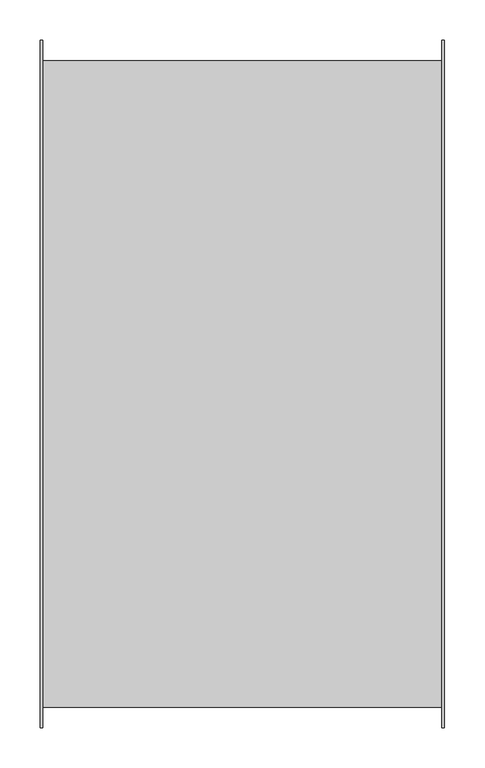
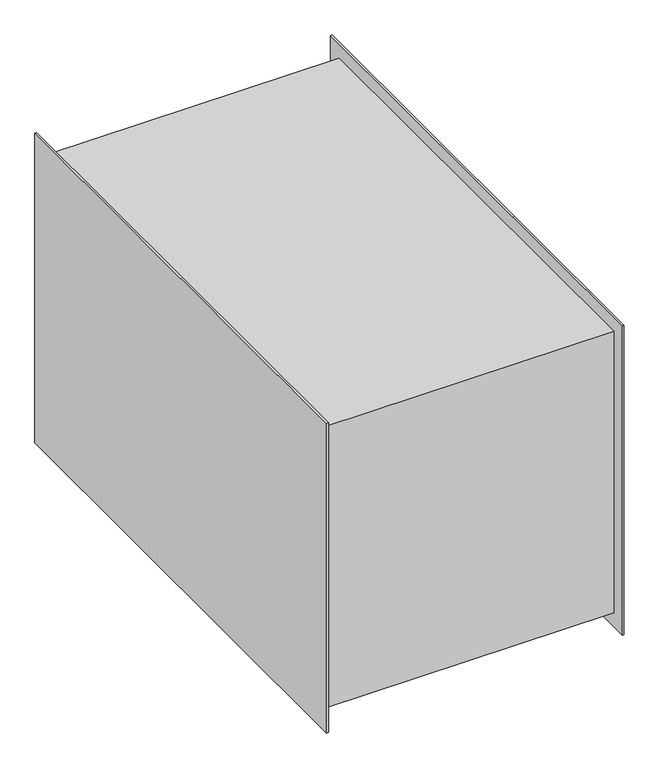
"""IFC4 building model written with IfcOpenShell, lengths in millimetres: damper geometry, Шумоглушитель_Прямоугольный_ГП : ГП (L=500)."""

from ifc_helpers import new_model, si_unit, origin, place, context, project, spatial, faceted_brep, source, transform, mapped, element, save


def damper_de34a188(model_context):
    return source(origin(), model_context, "Body", "Brep", [
        faceted_brep([(250.0, -425.0, 275.0), (250.0, -425.0, -275.0), (250.0, 425.0, -275.0), (250.0, 425.0, 275.0), (-250.0, -425.0, 275.0), (-250.0, 425.0, 275.0), (-250.0, 425.0, -275.0), (-250.0, -425.0, -275.0), (247.0, -425.0, 275.0), (247.0, -425.0, -275.0), (-247.0, -425.0, -275.0), (-247.0, -425.0, 275.0), (247.0, 425.0, -275.0), (-247.0, 425.0, -275.0), (247.0, 425.0, 275.0), (-247.0, 425.0, 275.0), (247.0, -400.0, 250.0), (247.0, -400.0, -250.0), (247.0, 400.0, -250.0), (247.0, 400.0, 250.0), (-247.0, -400.0, 250.0), (-247.0, 400.0, 250.0), (-247.0, 400.0, -250.0), (-247.0, -400.0, -250.0)], [[[0, 1, 2, 3]], [[4, 5, 6, 7]], [[1, 0, 8, 9]], [[4, 7, 10, 11]], [[2, 1, 9, 12]], [[7, 6, 13, 10]], [[3, 2, 12, 14]], [[6, 5, 15, 13]], [[0, 3, 14, 8]], [[5, 4, 11, 15]], [[9, 8, 14, 12], [16, 17, 18, 19]], [[11, 10, 13, 15], [20, 21, 22, 23]], [[16, 19, 21, 20]], [[19, 18, 22, 21]], [[18, 17, 23, 22]], [[17, 16, 20, 23]]]),
    ])


if __name__ == "__main__":
    model = new_model("IFC4")
    model_context = context("Model", 3, world=origin())
    ifc_project = project(units=[si_unit("LENGTHUNIT", "METRE", prefix="MILLI")], contexts=[model_context])
    site = spatial("IfcSite", under=ifc_project)
    building = spatial("IfcBuilding", under=site)
    placement = place(None, origin())
    damper_shape = damper_de34a188(model_context)
    element("IfcDamper", 1, ObjectType="Шумоглушитель_Прямоугольный_ГП : ГП (L=500)", at=placement, inside=building, context=model_context, shape_type="MappedRepresentation", body=[
        mapped(damper_shape, transform((0.0, 0.0, 0.0), x_axis=(1.0, 0.0, 0.0), y_axis=(0.0, 1.0, 0.0), z_axis=(0.0, 0.0, 1.0))),
    ])
    save(model, "model.ifc")
